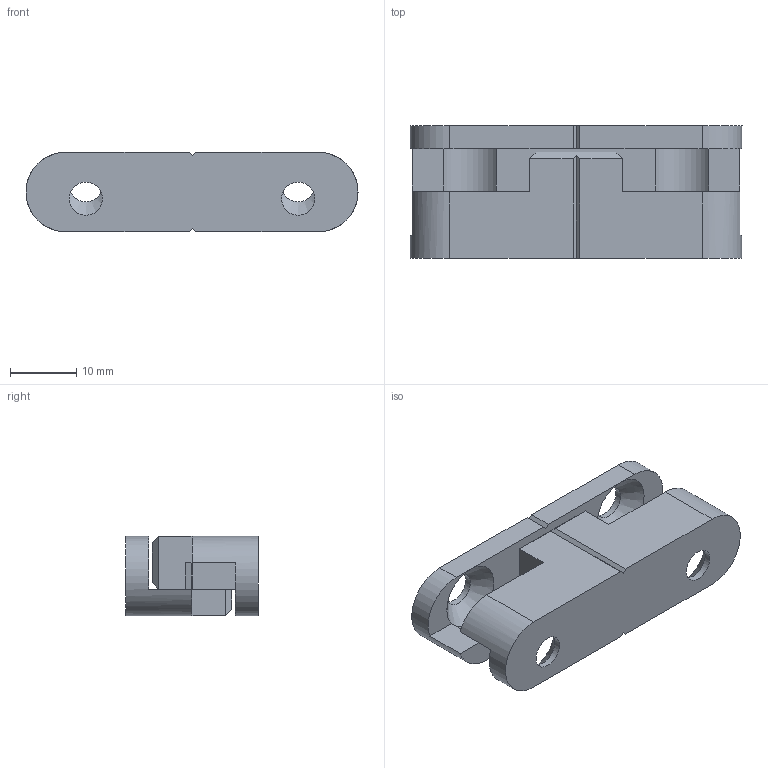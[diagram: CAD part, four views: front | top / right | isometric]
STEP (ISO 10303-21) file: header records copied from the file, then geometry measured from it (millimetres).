
FILE_DESCRIPTION(/* description */ ('Unknown'),/* implementation_level */ '2;1');
FILE_NAME(/* name */ 'Chico',/* time_stamp */ '2020-05-04T15:50:25+02:00',/* author */ ('Unknown'),/* organization */ ('Unknown'),/* preprocessor_version */ 'ST-DEVELOPER v16.7',/* originating_system */ 'DEX',/* authorisation */ $);
FILE_SCHEMA (('AUTOMOTIVE_DESIGN {1 0 10303 214 3 1 1}'));
Length unit declared in the file: millimetre
Products named in the file (3): Chico; Chico m.Anschl
Assembly tree (2 placements, depth 2):
  Chico
    Chico
    Chico m.Anschl
Bounding box: 50 x 20 x 12 mm (x, y, z)
Volume: 6888.7 mm3; surface area: 5196.3 mm2
Topology: 2 solids, 2 shells, 188 faces, 491 edges, 319 vertices
Faces by surface type: plane 150, bspline 22, cylinder 12, cone 4
Full cylindrical faces by diameter (mm): 5 x4
Entity records: 6342 total; most frequent: CARTESIAN_POINT 2111, ORIENTED_EDGE 958, DIRECTION 661, EDGE_CURVE 479, VERTEX_POINT 315, LINE 251, VECTOR 251, EDGE_LOOP 216
